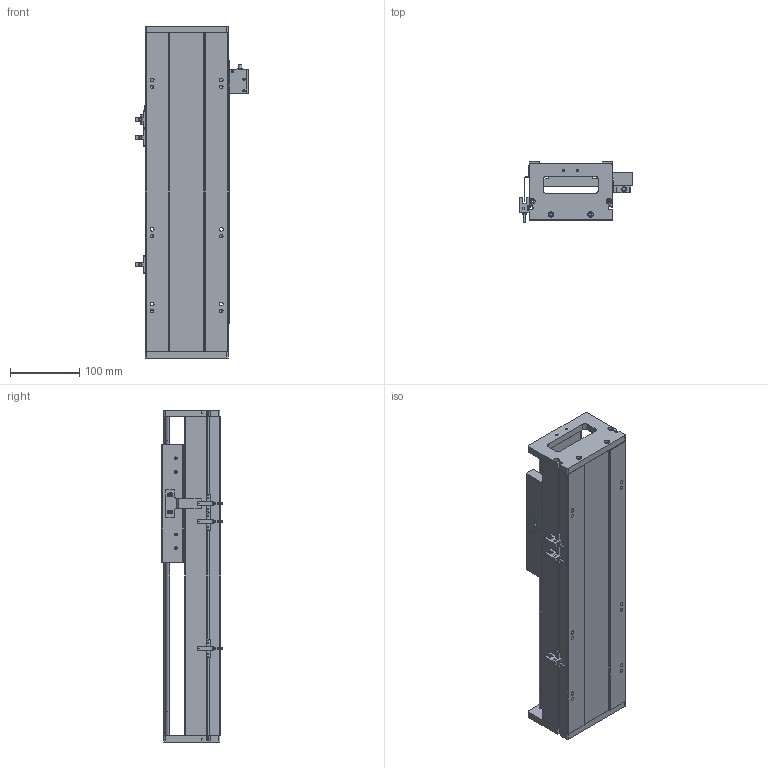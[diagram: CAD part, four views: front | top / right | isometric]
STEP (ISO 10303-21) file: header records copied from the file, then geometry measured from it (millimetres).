
FILE_DESCRIPTION (( 'STEP AP203' ), '1' );
FILE_NAME ('SKR12S-C1-S210（简）.STEP', '2022-09-26T02:29:11', ( '' ), ( '' ), 'SwSTEP 2.0', 'SolidWorks 2018', '' );
FILE_SCHEMA (( 'CONFIG_CONTROL_DESIGN' ));
Length unit declared in the file: millimetre
Products named in the file (8): SKR12滑台-170L（简）; SIKO棠掑; SKR12S-C1-S210（简）; 覜茼え; SKR12菁釱-C1-S210(潠); EE-SX672; 棠掑假蚾輸; SKR12耜啣
Assembly tree (10 placements, depth 2):
  SKR12S-C1-S210（简）
    SKR12菁釱-C1-S210(潠)
    SKR12滑台-170L（简）
    SKR12耜啣  x2
    棠掑假蚾輸
    SIKO棠掑
    覜茼え
    EE-SX672  x3
Bounding box: 162.7 x 87.3 x 480 mm (x, y, z)
Volume: 2448152.4 mm3; surface area: 432604 mm2
Topology: 11 solids, 11 shells, 908 faces, 2399 edges, 1519 vertices
Faces by surface type: cylinder 397, plane 389, cone 122
Entity records: 23999 total; most frequent: CARTESIAN_POINT 4483, DIRECTION 4049, ORIENTED_EDGE 3786, EDGE_CURVE 1893, AXIS2_PLACEMENT_3D 1485, VERTEX_POINT 1223, VECTOR 1079, LINE 1079
